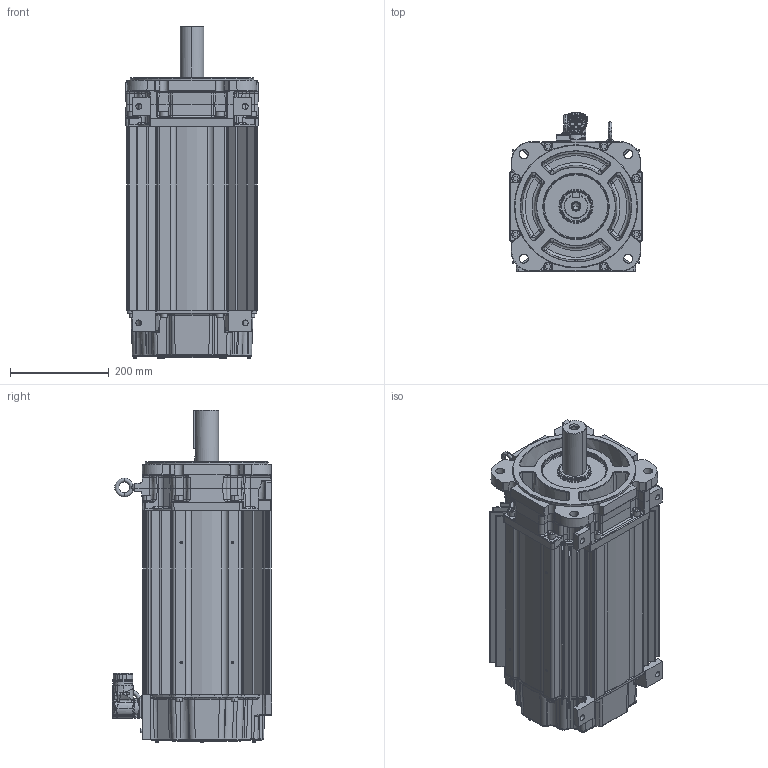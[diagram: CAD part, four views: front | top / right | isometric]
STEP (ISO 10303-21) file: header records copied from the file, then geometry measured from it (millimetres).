
FILE_DESCRIPTION((''),'2;1');
FILE_NAME('VPCB3003XXX4AS_ASM','2020-01-16T13:34:49',('VThimma'),('Rockwell Automation'),'CREO PARAMETRIC BY PTC INC, 2017380','CREO PARAMETRIC BY PTC INC, 2017380','');
FILE_SCHEMA(('CONFIG_CONTROL_DESIGN','SHAPE_APPEARANCE_LAYERS_GROUPS'));
Products named in the file (21): 10001441962; 10001404634_AF0; 10001404629_AF6; 10001404635_ASM; 10001585735; 10001442012_ASM; 10001439798; 10001440031_ASM; 10001405269_AF27; 10001405369_ASM; 10001586887; 0002-5004; 10001609981; 10001737030; 10000801000; 10000801001; 10000801002_ASM; 221404-Q12; 10001408124; 0011-2084; VPCB3003XXX4AS_ASM
Assembly tree (43 placements, depth 4):
  VPCB3003XXX4AS_ASM
    10001442012_ASM
      10001441962
      10001404635_ASM
        10001404634_AF0
        10001404629_AF6
      10001585735  x8
    10001440031_ASM
      10001439798
    10001405369_ASM
      10001405269_AF27
    10001586887  x7
    0002-5004  x2
    10001609981
    10001737030
    10000801002_ASM
      10000801000
      10000801001
    221404-Q12  x10
    10001408124
    0011-2084
Bounding box: 269.49 x 324.1 x 673.83 mm (x, y, z)
Surface area: 2153276.8 mm2 (no closed solid volume)
Topology: 0 solids, 41 shells, 4485 faces, 11171 edges, 6827 vertices
Faces by surface type: cylinder 1433, plane 1237, bspline 755, torus 547, cone 442, sphere 64, extrusion 7
Entity records: 185225 total; most frequent: CARTESIAN_POINT 54052, ORIENTED_EDGE 17404, DIRECTION 16316, PRESENTATION_STYLE_ASSIGNMENT 12165, STYLED_ITEM 12165, CURVE_STYLE 8713, EDGE_CURVE 8706, AXIS2_PLACEMENT_3D 6399
